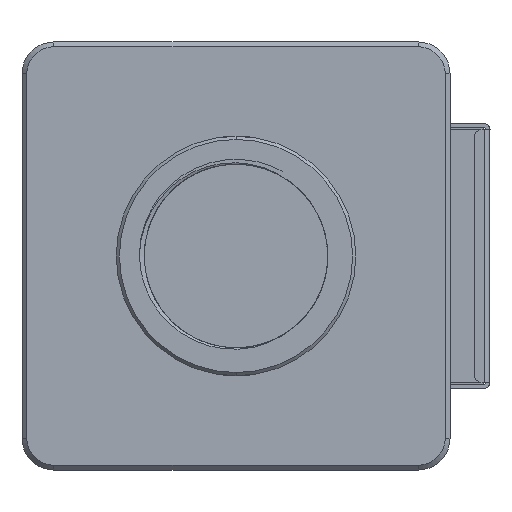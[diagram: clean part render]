
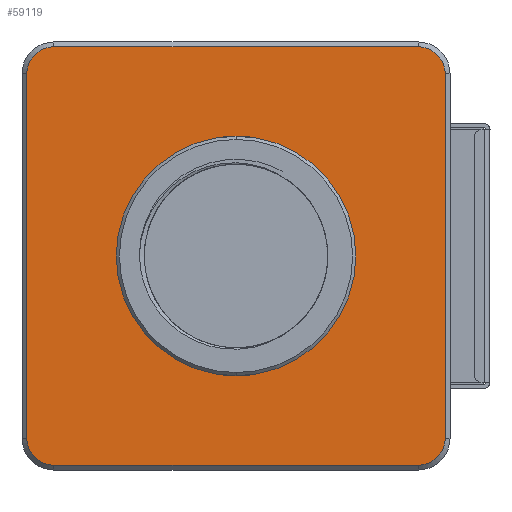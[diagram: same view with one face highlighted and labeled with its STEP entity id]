
A CAD part, front view. The second image highlights one B-rep face of the part: STEP entity #59119.
In plain terms, the highlighted planar face has unit normal (0, -1, 0).
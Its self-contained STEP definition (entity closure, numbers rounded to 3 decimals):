
#172 = CARTESIAN_POINT ( 'NONE',  ( -11.4, 0., -11.4 ) ) ;
#1158 = ORIENTED_EDGE ( 'NONE', *, *, #97026, .F. ) ;
#4248 = LINE ( 'NONE', #27214, #74095 ) ;
#4304 = CARTESIAN_POINT ( 'NONE',  ( 0., 0., 7.5 ) ) ;
#5666 = VERTEX_POINT ( 'NONE', #4304 ) ;
#6639 = CIRCLE ( 'NONE', #19430, 1.7 ) ;
#7206 = EDGE_CURVE ( 'NONE', #50604, #63002, #6639, .T. ) ;
#8534 = CARTESIAN_POINT ( 'NONE',  ( -13.4, 0., 13.4 ) ) ;
#9768 = DIRECTION ( 'NONE',  ( 0., -1., 0. ) ) ;
#10109 = ORIENTED_EDGE ( 'NONE', *, *, #48371, .T. ) ;
#10282 = DIRECTION ( 'NONE',  ( 0., 0., 1. ) ) ;
#10562 = DIRECTION ( 'NONE',  ( 0., -1., 0. ) ) ;
#11052 = CARTESIAN_POINT ( 'NONE',  ( -11.4, 0., 11.4 ) ) ;
#12360 = EDGE_CURVE ( 'NONE', #54554, #54325, #18751, .T. ) ;
#15116 = CIRCLE ( 'NONE', #80302, 7.5 ) ;
#15437 = AXIS2_PLACEMENT_3D ( 'NONE', #80347, #87827, #80838 ) ;
#15539 = DIRECTION ( 'NONE',  ( 0., 1., 0. ) ) ;
#15700 = ORIENTED_EDGE ( 'NONE', *, *, #70111, .T. ) ;
#17996 = EDGE_CURVE ( 'NONE', #85634, #54554, #37762, .T. ) ;
#18751 = LINE ( 'NONE', #49233, #60729 ) ;
#19430 = AXIS2_PLACEMENT_3D ( 'NONE', #11052, #10562, #32049 ) ;
#19623 = CARTESIAN_POINT ( 'NONE',  ( -13.4, 0., 13.1 ) ) ;
#19626 = EDGE_CURVE ( 'NONE', #63002, #85634, #71006, .T. ) ;
#20226 = DIRECTION ( 'NONE',  ( 0., 0., 1. ) ) ;
#20316 = ORIENTED_EDGE ( 'NONE', *, *, #17996, .T. ) ;
#27109 = CARTESIAN_POINT ( 'NONE',  ( -11.4, 0., -13.1 ) ) ;
#27214 = CARTESIAN_POINT ( 'NONE',  ( 13.1, 0., 13.4 ) ) ;
#27722 = DIRECTION ( 'NONE',  ( 0., 0., 1. ) ) ;
#28565 = DIRECTION ( 'NONE',  ( -1., 0., 0. ) ) ;
#32049 = DIRECTION ( 'NONE',  ( 0., 0., 1. ) ) ;
#32570 = CARTESIAN_POINT ( 'NONE',  ( 13.1, 0., -11.4 ) ) ;
#36738 = ORIENTED_EDGE ( 'NONE', *, *, #95507, .T. ) ;
#37762 = CIRCLE ( 'NONE', #80837, 1.7 ) ;
#39075 = CARTESIAN_POINT ( 'NONE',  ( -11.4, 0., 13.1 ) ) ;
#39653 = DIRECTION ( 'NONE',  ( 0., 0., 1. ) ) ;
#39872 = CARTESIAN_POINT ( 'NONE',  ( 13.1, 0., 11.4 ) ) ;
#40138 = CARTESIAN_POINT ( 'NONE',  ( 11.4, 0., -13.1 ) ) ;
#40796 = CARTESIAN_POINT ( 'NONE',  ( -13.1, 0., -11.4 ) ) ;
#41140 = CARTESIAN_POINT ( 'NONE',  ( -13.1, 0., 11.4 ) ) ;
#41419 = CIRCLE ( 'NONE', #97251, 7.5 ) ;
#42022 = DIRECTION ( 'NONE',  ( 0., 0., -1. ) ) ;
#43184 = DIRECTION ( 'NONE',  ( 1., 0., 0. ) ) ;
#43190 = FACE_BOUND ( 'NONE', #44599, .T. ) ;
#43694 = FACE_OUTER_BOUND ( 'NONE', #85664, .T. ) ;
#44599 = EDGE_LOOP ( 'NONE', ( #90454, #1158 ) ) ;
#46286 = CIRCLE ( 'NONE', #62144, 1.7 ) ;
#46522 = CARTESIAN_POINT ( 'NONE',  ( 0., 0., 0. ) ) ;
#48371 = EDGE_CURVE ( 'NONE', #52126, #67324, #87186, .T. ) ;
#49233 = CARTESIAN_POINT ( 'NONE',  ( -13.4, 0., -13.1 ) ) ;
#50604 = VERTEX_POINT ( 'NONE', #39075 ) ;
#52126 = VERTEX_POINT ( 'NONE', #39872 ) ;
#54325 = VERTEX_POINT ( 'NONE', #40138 ) ;
#54554 = VERTEX_POINT ( 'NONE', #27109 ) ;
#57983 = CARTESIAN_POINT ( 'NONE',  ( -13.1, 0., 13.4 ) ) ;
#59119 = ADVANCED_FACE ( 'NONE', ( #43694, #43190 ), #89649, .F. ) ;
#60729 = VECTOR ( 'NONE', #43184, 1000. ) ;
#61026 = CARTESIAN_POINT ( 'NONE',  ( 0., 0., -7.5 ) ) ;
#61116 = DIRECTION ( 'NONE',  ( 0., -1., 0. ) ) ;
#61660 = DIRECTION ( 'NONE',  ( 0., -1., 0. ) ) ;
#61953 = DIRECTION ( 'NONE',  ( 0., -1., 0. ) ) ;
#62144 = AXIS2_PLACEMENT_3D ( 'NONE', #78190, #9768, #10282 ) ;
#62838 = VECTOR ( 'NONE', #28565, 1000. ) ;
#63002 = VERTEX_POINT ( 'NONE', #41140 ) ;
#63624 = DIRECTION ( 'NONE',  ( 0., 0., 1. ) ) ;
#64376 = VERTEX_POINT ( 'NONE', #61026 ) ;
#64466 = VERTEX_POINT ( 'NONE', #32570 ) ;
#65201 = ORIENTED_EDGE ( 'NONE', *, *, #19626, .T. ) ;
#67324 = VERTEX_POINT ( 'NONE', #88164 ) ;
#69965 = DIRECTION ( 'NONE',  ( 0., 0., 1. ) ) ;
#70111 = EDGE_CURVE ( 'NONE', #54325, #64466, #46286, .T. ) ;
#71006 = LINE ( 'NONE', #57983, #92920 ) ;
#74095 = VECTOR ( 'NONE', #27722, 1000. ) ;
#75207 = CARTESIAN_POINT ( 'NONE',  ( 0., 0., 0. ) ) ;
#75985 = AXIS2_PLACEMENT_3D ( 'NONE', #8534, #15539, #20226 ) ;
#78190 = CARTESIAN_POINT ( 'NONE',  ( 11.4, 0., -11.4 ) ) ;
#80302 = AXIS2_PLACEMENT_3D ( 'NONE', #46522, #61953, #69965 ) ;
#80347 = CARTESIAN_POINT ( 'NONE',  ( 11.4, 0., 11.4 ) ) ;
#80837 = AXIS2_PLACEMENT_3D ( 'NONE', #172, #61116, #39653 ) ;
#80838 = DIRECTION ( 'NONE',  ( 0., 0., 1. ) ) ;
#85634 = VERTEX_POINT ( 'NONE', #40796 ) ;
#85664 = EDGE_LOOP ( 'NONE', ( #20316, #89209, #15700, #85671, #10109, #36738, #92026, #65201 ) ) ;
#85671 = ORIENTED_EDGE ( 'NONE', *, *, #96320, .T. ) ;
#87174 = EDGE_CURVE ( 'NONE', #5666, #64376, #41419, .T. ) ;
#87186 = CIRCLE ( 'NONE', #15437, 1.7 ) ;
#87827 = DIRECTION ( 'NONE',  ( 0., -1., 0. ) ) ;
#88164 = CARTESIAN_POINT ( 'NONE',  ( 11.4, 0., 13.1 ) ) ;
#89209 = ORIENTED_EDGE ( 'NONE', *, *, #12360, .T. ) ;
#89649 = PLANE ( 'NONE',  #75985 ) ;
#90454 = ORIENTED_EDGE ( 'NONE', *, *, #87174, .F. ) ;
#92026 = ORIENTED_EDGE ( 'NONE', *, *, #7206, .T. ) ;
#92920 = VECTOR ( 'NONE', #42022, 1000. ) ;
#95507 = EDGE_CURVE ( 'NONE', #67324, #50604, #96522, .T. ) ;
#96320 = EDGE_CURVE ( 'NONE', #64466, #52126, #4248, .T. ) ;
#96522 = LINE ( 'NONE', #19623, #62838 ) ;
#97026 = EDGE_CURVE ( 'NONE', #64376, #5666, #15116, .T. ) ;
#97251 = AXIS2_PLACEMENT_3D ( 'NONE', #75207, #61660, #63624 ) ;
